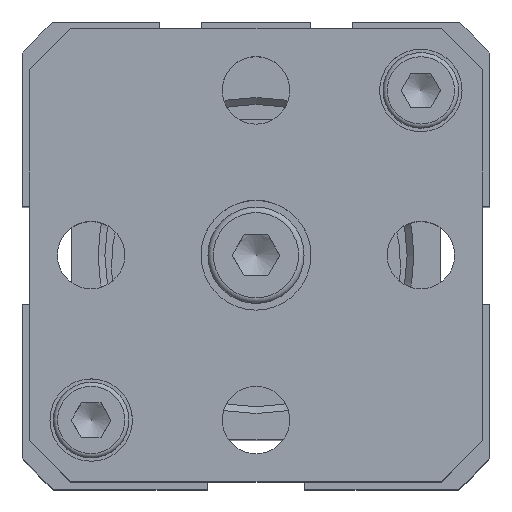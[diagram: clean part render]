
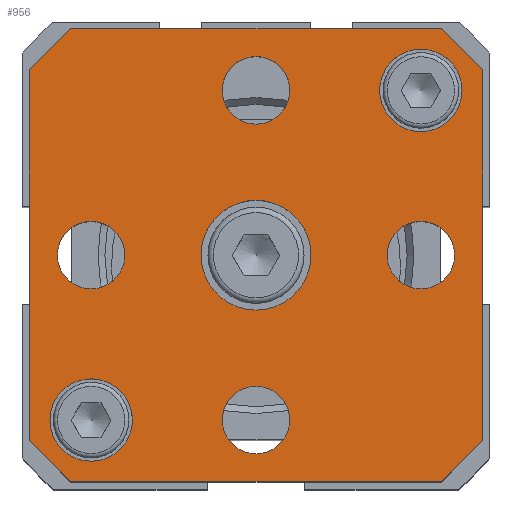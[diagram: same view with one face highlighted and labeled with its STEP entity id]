
A CAD part, top view. The second image highlights one B-rep face of the part: STEP entity #956.
In plain terms, the highlighted planar face has unit normal (0, 0, 1).
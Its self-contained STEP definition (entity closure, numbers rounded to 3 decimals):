
#273=CARTESIAN_POINT('',(9.24,13.683,53.));
#274=VERTEX_POINT('',#273);
#275=CARTESIAN_POINT('',(12.24,13.683,53.));
#276=DIRECTION('',(0.0,0.0,-1.0));
#277=DIRECTION('',(-1.0,0.0,0.0));
#278=AXIS2_PLACEMENT_3D('',#275,#276,#277);
#279=CIRCLE('',#278,3.);
#280=EDGE_CURVE('',#274,#274,#279,.T.);
#342=CARTESIAN_POINT('',(-14.76,-10.317,53.));
#343=VERTEX_POINT('',#342);
#344=CARTESIAN_POINT('',(-11.76,-10.317,53.));
#345=DIRECTION('',(0.0,0.0,-1.0));
#346=DIRECTION('',(-1.0,0.0,0.0));
#347=AXIS2_PLACEMENT_3D('',#344,#345,#346);
#348=CIRCLE('',#347,3.);
#349=EDGE_CURVE('',#343,#343,#348,.T.);
#383=CARTESIAN_POINT('',(-14.218,1.683,53.));
#384=VERTEX_POINT('',#383);
#385=CARTESIAN_POINT('',(-11.76,1.683,53.));
#386=DIRECTION('',(0.0,0.0,-1.0));
#387=DIRECTION('',(-1.0,0.0,0.0));
#388=AXIS2_PLACEMENT_3D('',#385,#386,#387);
#389=CIRCLE('',#388,2.459);
#390=EDGE_CURVE('',#384,#384,#389,.T.);
#432=CARTESIAN_POINT('',(-2.218,13.683,53.));
#433=VERTEX_POINT('',#432);
#434=CARTESIAN_POINT('',(0.24,13.683,53.));
#435=DIRECTION('',(0.0,0.0,-1.0));
#436=DIRECTION('',(-1.0,0.0,0.0));
#437=AXIS2_PLACEMENT_3D('',#434,#435,#436);
#438=CIRCLE('',#437,2.459);
#439=EDGE_CURVE('',#433,#433,#438,.T.);
#481=CARTESIAN_POINT('',(9.782,1.683,53.));
#482=VERTEX_POINT('',#481);
#483=CARTESIAN_POINT('',(12.24,1.683,53.));
#484=DIRECTION('',(0.0,0.0,-1.0));
#485=DIRECTION('',(-1.0,0.0,0.0));
#486=AXIS2_PLACEMENT_3D('',#483,#484,#485);
#487=CIRCLE('',#486,2.459);
#488=EDGE_CURVE('',#482,#482,#487,.T.);
#530=CARTESIAN_POINT('',(-2.218,-10.317,53.));
#531=VERTEX_POINT('',#530);
#532=CARTESIAN_POINT('',(0.24,-10.317,53.));
#533=DIRECTION('',(0.0,0.0,-1.0));
#534=DIRECTION('',(-1.0,0.0,0.0));
#535=AXIS2_PLACEMENT_3D('',#532,#533,#534);
#536=CIRCLE('',#535,2.459);
#537=EDGE_CURVE('',#531,#531,#536,.T.);
#579=CARTESIAN_POINT('',(-3.76,1.683,53.));
#580=VERTEX_POINT('',#579);
#581=CARTESIAN_POINT('',(0.24,1.683,53.));
#582=DIRECTION('',(0.0,0.0,-1.0));
#583=DIRECTION('',(-1.0,0.0,0.0));
#584=AXIS2_PLACEMENT_3D('',#581,#582,#583);
#585=CIRCLE('',#584,4.0);
#586=EDGE_CURVE('',#580,#580,#585,.T.);
#640=CARTESIAN_POINT('',(16.74,15.183,53.));
#641=VERTEX_POINT('',#640);
#642=CARTESIAN_POINT('',(16.74,-11.817,53.));
#643=VERTEX_POINT('',#642);
#644=CARTESIAN_POINT('',(16.74,15.183,53.));
#645=DIRECTION('',(0.0,-1.0,0.0));
#646=VECTOR('',#645,27.);
#647=LINE('',#644,#646);
#648=EDGE_CURVE('',#641,#643,#647,.T.);
#680=CARTESIAN_POINT('',(13.74,-14.817,53.));
#681=VERTEX_POINT('',#680);
#682=CARTESIAN_POINT('',(16.74,-11.817,53.));
#683=DIRECTION('',(-0.707,-0.707,0.0));
#684=VECTOR('',#683,4.243);
#685=LINE('',#682,#684);
#686=EDGE_CURVE('',#643,#681,#685,.T.);
#711=CARTESIAN_POINT('',(-13.26,-14.817,53.));
#712=VERTEX_POINT('',#711);
#713=CARTESIAN_POINT('',(13.74,-14.817,53.));
#714=DIRECTION('',(-1.0,0.0,0.0));
#715=VECTOR('',#714,27.);
#716=LINE('',#713,#715);
#717=EDGE_CURVE('',#681,#712,#716,.T.);
#742=CARTESIAN_POINT('',(-16.26,-11.817,53.));
#743=VERTEX_POINT('',#742);
#744=CARTESIAN_POINT('',(-13.26,-14.817,53.));
#745=DIRECTION('',(-0.707,0.707,0.0));
#746=VECTOR('',#745,4.243);
#747=LINE('',#744,#746);
#748=EDGE_CURVE('',#712,#743,#747,.T.);
#773=CARTESIAN_POINT('',(-16.26,15.183,53.));
#774=VERTEX_POINT('',#773);
#775=CARTESIAN_POINT('',(-16.26,-11.817,53.));
#776=DIRECTION('',(0.0,1.0,0.0));
#777=VECTOR('',#776,27.);
#778=LINE('',#775,#777);
#779=EDGE_CURVE('',#743,#774,#778,.T.);
#804=CARTESIAN_POINT('',(-13.26,18.183,53.));
#805=VERTEX_POINT('',#804);
#806=CARTESIAN_POINT('',(-16.26,15.183,53.));
#807=DIRECTION('',(0.707,0.707,0.0));
#808=VECTOR('',#807,4.243);
#809=LINE('',#806,#808);
#810=EDGE_CURVE('',#774,#805,#809,.T.);
#835=CARTESIAN_POINT('',(13.74,18.183,53.));
#836=VERTEX_POINT('',#835);
#837=CARTESIAN_POINT('',(-13.26,18.183,53.));
#838=DIRECTION('',(1.0,0.0,0.0));
#839=VECTOR('',#838,27.);
#840=LINE('',#837,#839);
#841=EDGE_CURVE('',#805,#836,#840,.T.);
#866=CARTESIAN_POINT('',(13.74,18.183,53.));
#867=DIRECTION('',(0.707,-0.707,0.0));
#868=VECTOR('',#867,4.243);
#869=LINE('',#866,#868);
#870=EDGE_CURVE('',#836,#641,#869,.T.);
#920=CARTESIAN_POINT('',(0.24,1.683,53.));
#921=DIRECTION('',(0.0,0.0,1.0));
#922=DIRECTION('',(1.0,0.0,0.0));
#923=AXIS2_PLACEMENT_3D('',#920,#921,#922);
#924=PLANE('',#923);
#925=ORIENTED_EDGE('',*,*,#648,.F.);
#926=ORIENTED_EDGE('',*,*,#870,.F.);
#927=ORIENTED_EDGE('',*,*,#841,.F.);
#928=ORIENTED_EDGE('',*,*,#810,.F.);
#929=ORIENTED_EDGE('',*,*,#779,.F.);
#930=ORIENTED_EDGE('',*,*,#748,.F.);
#931=ORIENTED_EDGE('',*,*,#717,.F.);
#932=ORIENTED_EDGE('',*,*,#686,.F.);
#933=EDGE_LOOP('',(#925,#926,#927,#928,#929,#930,#931,#932));
#934=FACE_OUTER_BOUND('',#933,.T.);
#935=ORIENTED_EDGE('',*,*,#280,.T.);
#936=EDGE_LOOP('',(#935));
#937=FACE_BOUND('',#936,.T.);
#938=ORIENTED_EDGE('',*,*,#349,.T.);
#939=EDGE_LOOP('',(#938));
#940=FACE_BOUND('',#939,.T.);
#941=ORIENTED_EDGE('',*,*,#390,.T.);
#942=EDGE_LOOP('',(#941));
#943=FACE_BOUND('',#942,.T.);
#944=ORIENTED_EDGE('',*,*,#439,.T.);
#945=EDGE_LOOP('',(#944));
#946=FACE_BOUND('',#945,.T.);
#947=ORIENTED_EDGE('',*,*,#488,.T.);
#948=EDGE_LOOP('',(#947));
#949=FACE_BOUND('',#948,.T.);
#950=ORIENTED_EDGE('',*,*,#537,.T.);
#951=EDGE_LOOP('',(#950));
#952=FACE_BOUND('',#951,.T.);
#953=ORIENTED_EDGE('',*,*,#586,.T.);
#954=EDGE_LOOP('',(#953));
#955=FACE_BOUND('',#954,.T.);
#956=ADVANCED_FACE('',(#934,#937,#940,#943,#946,#949,#952,#955),#924,.T.);
